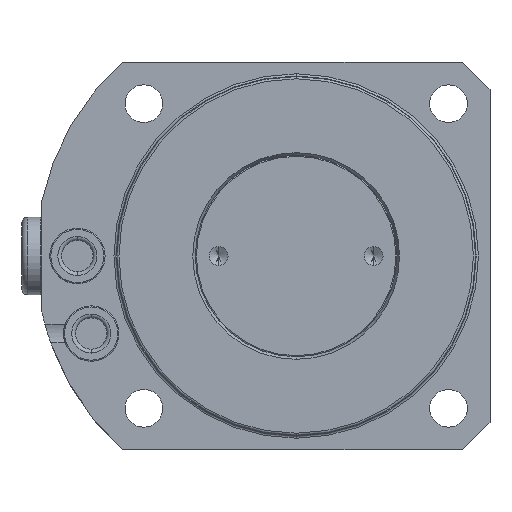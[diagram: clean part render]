
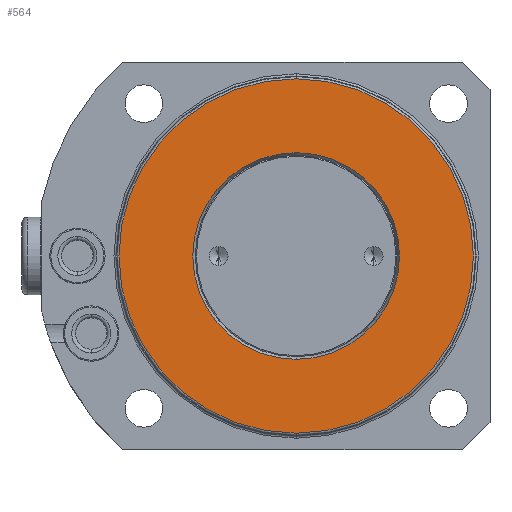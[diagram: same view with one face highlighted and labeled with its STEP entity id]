
A CAD part, front view. The second image highlights one B-rep face of the part: STEP entity #564.
In plain terms, the highlighted planar face has unit normal (0, -1, 0).
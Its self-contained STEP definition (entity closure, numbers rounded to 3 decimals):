
#269=PLANE('',#3761);
#337=FACE_BOUND('',#1072,.T.);
#338=FACE_BOUND('',#1073,.T.);
#564=ADVANCED_FACE('',(#337,#338),#269,.T.);
#1072=EDGE_LOOP('',(#1816,#1817));
#1073=EDGE_LOOP('',(#1818,#1819));
#1816=ORIENTED_EDGE('',*,*,#2981,.T.);
#1817=ORIENTED_EDGE('',*,*,#3040,.T.);
#1818=ORIENTED_EDGE('',*,*,#3039,.F.);
#1819=ORIENTED_EDGE('',*,*,#2985,.F.);
#2668=VERTEX_POINT('',#5727);
#2669=VERTEX_POINT('',#5729);
#2672=VERTEX_POINT('',#5736);
#2673=VERTEX_POINT('',#5738);
#2981=EDGE_CURVE('',#2669,#2668,#3402,.T.);
#2985=EDGE_CURVE('',#2672,#2673,#3405,.T.);
#3039=EDGE_CURVE('',#2673,#2672,#3429,.T.);
#3040=EDGE_CURVE('',#2668,#2669,#3430,.T.);
#3402=CIRCLE('',#3719,32.);
#3405=CIRCLE('',#3723,18.662);
#3429=CIRCLE('',#3758,18.662);
#3430=CIRCLE('',#3760,32.);
#3719=AXIS2_PLACEMENT_3D('',#5728,#4381,#4382);
#3723=AXIS2_PLACEMENT_3D('',#5737,#4390,#4391);
#3758=AXIS2_PLACEMENT_3D('',#5894,#4477,#4478);
#3760=AXIS2_PLACEMENT_3D('',#5896,#4481,#4482);
#3761=AXIS2_PLACEMENT_3D('',#5897,#4483,#4484);
#4381=DIRECTION('',(0.,-1.,0.));
#4382=DIRECTION('',(0.,0.,-1.));
#4390=DIRECTION('',(0.,-1.,0.));
#4391=DIRECTION('',(0.,0.,-1.));
#4477=DIRECTION('',(0.,-1.,0.));
#4478=DIRECTION('',(0.,0.,-1.));
#4481=DIRECTION('',(0.,-1.,0.));
#4482=DIRECTION('',(0.,0.,-1.));
#4483=DIRECTION('',(0.,-1.,0.));
#4484=DIRECTION('',(0.,0.,1.));
#5727=CARTESIAN_POINT('',(0.,1.705,32.));
#5728=CARTESIAN_POINT('',(0.,1.705,0.));
#5729=CARTESIAN_POINT('',(0.,1.705,-32.));
#5736=CARTESIAN_POINT('',(0.,1.705,18.662));
#5737=CARTESIAN_POINT('',(0.,1.705,0.));
#5738=CARTESIAN_POINT('',(0.,1.705,-18.662));
#5894=CARTESIAN_POINT('',(0.,1.705,0.));
#5896=CARTESIAN_POINT('',(0.,1.705,0.));
#5897=CARTESIAN_POINT('',(0.,1.705,0.));
